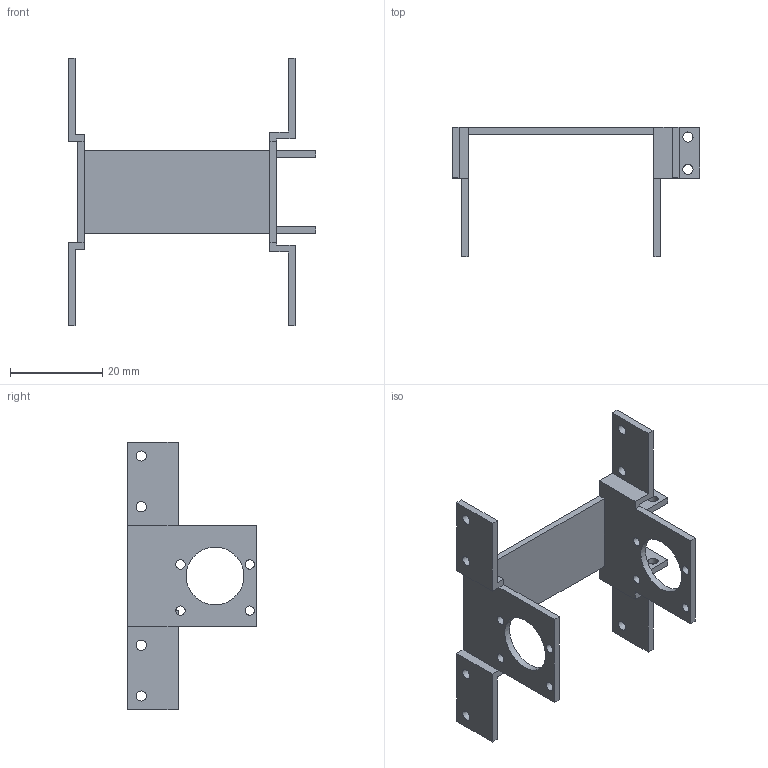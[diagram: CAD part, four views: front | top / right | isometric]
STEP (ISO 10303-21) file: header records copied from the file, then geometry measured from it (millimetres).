
FILE_DESCRIPTION(/* description */ (''),/* implementation_level */ '2;1');
FILE_NAME(/* name */ 'C:/Users/priba/Downloads/GripperBody.step',/* time_stamp */ '2020-06-09T22:15:45+02:00',/* author */ (''),/* organization */ (''),/* preprocessor_version */ 'ST-DEVELOPER v18.1',/* originating_system */ 'Autodesk Translation Framework v9.3.0.1241',/* authorisation */ '');
FILE_SCHEMA (('AUTOMOTIVE_DESIGN { 1 0 10303 214 3 1 1 }'));
Length unit declared in the file: millimetre
Products named in the file (2): GripperBody; GripperBody_1
Assembly tree (1 placements, depth 2):
  GripperBody
    GripperBody_1
Bounding box: 53.7 x 28 x 58 mm (x, y, z)
Volume: 4114.2 mm3; surface area: 6494.2 mm2
Topology: 1 solids, 1 shells, 71 faces, 206 edges, 136 vertices
Faces by surface type: plane 47, cylinder 24
Full cylindrical faces by diameter (mm): 2 x8, 2.2 x14, 12.5 x2
Entity records: 2487 total; most frequent: CARTESIAN_POINT 416, ORIENTED_EDGE 412, DIRECTION 404, EDGE_CURVE 206, LINE 156, VECTOR 156, VERTEX_POINT 136, AXIS2_PLACEMENT_3D 124
